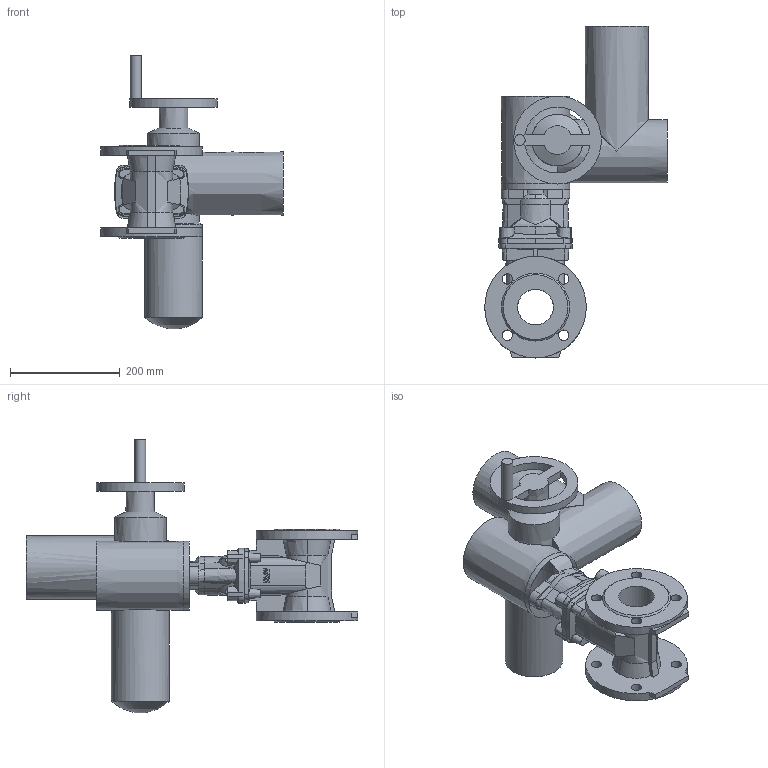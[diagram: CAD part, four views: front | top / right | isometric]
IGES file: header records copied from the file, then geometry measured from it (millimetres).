
Start section: SolidWorks IGES file using analytic representation for surfaces
Global section: file name: \\avksan2\techshare\PBM outline export from Enovia\O_15_42_DN065_X1X_SA07.6_AA0.igs; native system: SolidWorks 2012; preprocessor: SolidWorks 2012; author: pbm; date: 170320.133124; units: inch
Bounding box: 332.5 x 604.5 x 499 mm (x, y, z)
Surface area: 604766.8 mm2 (no closed solid volume)
Topology: 0 solids, 0 shells, 310 faces, 1743 edges, 1707 vertices
Faces by surface type: bspline 158, revolution 152
